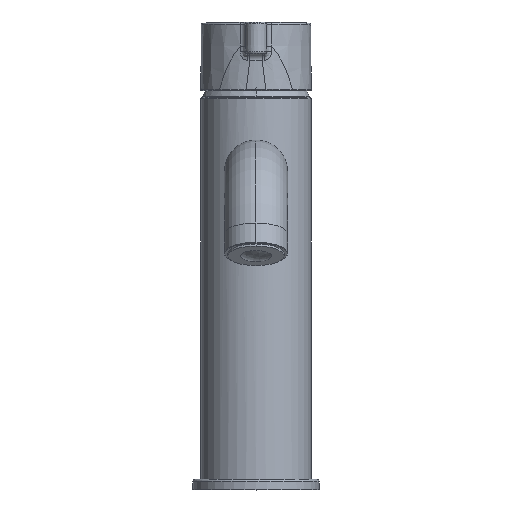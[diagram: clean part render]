
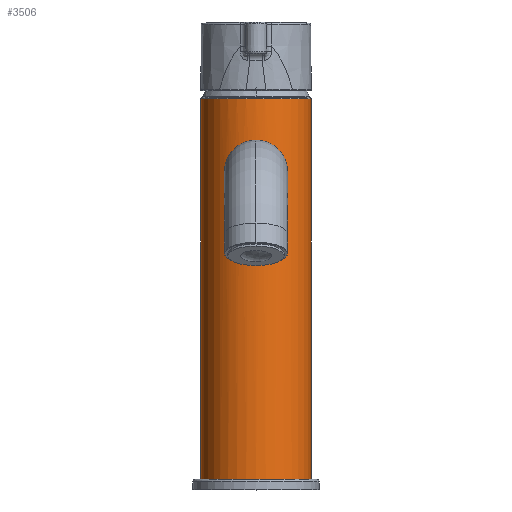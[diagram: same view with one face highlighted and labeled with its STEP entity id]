
A CAD part, top view. The second image highlights one B-rep face of the part: STEP entity #3506.
In plain terms, the highlighted cylindrical face has radius 21 mm (diameter 42 mm), a partial arc.
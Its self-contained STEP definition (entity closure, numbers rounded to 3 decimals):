
#929=CARTESIAN_POINT('',(0.,144.5,0.));
#930=DIRECTION('',(0.,-1.,0.));
#931=DIRECTION('',(1.,0.,0.));
#932=AXIS2_PLACEMENT_3D('',#929,#930,#931);
#934=CARTESIAN_POINT('',(0.,144.5,0.));
#935=DIRECTION('',(0.,-1.,0.));
#936=DIRECTION('',(1.,0.,0.017));
#937=AXIS2_PLACEMENT_3D('',#934,#935,#936);
#944=DIRECTION('',(0.,-1.,0.));
#945=VECTOR('',#944,144.5);
#946=CARTESIAN_POINT('',(21.,144.5,0.));
#947=LINE('',#946,#945);
#948=DIRECTION('',(0.,-1.,0.));
#949=VECTOR('',#948,144.5);
#950=CARTESIAN_POINT('',(-21.,144.5,0.));
#951=LINE('',#950,#949);
#962=CARTESIAN_POINT('',(0.,0.,0.));
#963=DIRECTION('',(0.,1.,0.));
#964=DIRECTION('',(-1.,0.,0.));
#965=AXIS2_PLACEMENT_3D('',#962,#963,#964);
#1030=CARTESIAN_POINT('',(0.,104.7,21.));
#1031=CARTESIAN_POINT('',(-0.765,104.7,21.));
#1032=CARTESIAN_POINT('',(-2.338,104.847,20.916));
#1033=CARTESIAN_POINT('',(-4.747,105.575,20.506));
#1034=CARTESIAN_POINT('',(-7.03,106.87,19.828));
#1035=CARTESIAN_POINT('',(-8.88,108.482,19.064));
#1036=CARTESIAN_POINT('',(-10.565,110.791,18.172));
#1037=CARTESIAN_POINT('',(-11.548,113.139,17.546));
#1038=CARTESIAN_POINT('',(-12.035,115.594,17.21));
#1039=CARTESIAN_POINT('',(-12.005,118.02,17.231));
#1040=CARTESIAN_POINT('',(-11.526,120.269,17.559));
#1041=CARTESIAN_POINT('',(-10.685,122.344,18.096));
#1042=CARTESIAN_POINT('',(-9.211,124.536,18.902));
#1043=CARTESIAN_POINT('',(-7.37,126.293,19.708));
#1044=CARTESIAN_POINT('',(-4.954,127.753,20.466));
#1045=CARTESIAN_POINT('',(-2.337,128.563,20.921));
#1046=CARTESIAN_POINT('',(-0.75,128.7,21.));
#1047=CARTESIAN_POINT('',(0.,128.7,21.));
#1053=CARTESIAN_POINT('',(0.,128.7,21.));
#1054=CARTESIAN_POINT('',(0.765,128.7,21.));
#1055=CARTESIAN_POINT('',(2.338,128.553,20.916));
#1056=CARTESIAN_POINT('',(4.747,127.825,20.506));
#1057=CARTESIAN_POINT('',(7.03,126.53,19.828));
#1058=CARTESIAN_POINT('',(8.88,124.918,19.064));
#1059=CARTESIAN_POINT('',(10.565,122.609,18.172));
#1060=CARTESIAN_POINT('',(11.548,120.261,17.546));
#1061=CARTESIAN_POINT('',(12.035,117.806,17.21));
#1062=CARTESIAN_POINT('',(12.005,115.38,17.231));
#1063=CARTESIAN_POINT('',(11.526,113.131,17.559));
#1064=CARTESIAN_POINT('',(10.685,111.056,18.096));
#1065=CARTESIAN_POINT('',(9.211,108.864,18.902));
#1066=CARTESIAN_POINT('',(7.37,107.107,19.708));
#1067=CARTESIAN_POINT('',(4.954,105.647,20.466));
#1068=CARTESIAN_POINT('',(2.337,104.837,20.921));
#1069=CARTESIAN_POINT('',(0.75,104.7,21.));
#1070=CARTESIAN_POINT('',(0.,104.7,21.));
#1384=CARTESIAN_POINT('',(-21.,0.,0.));
#1385=CARTESIAN_POINT('',(21.,0.,0.));
#1386=VERTEX_POINT('',#1384);
#1387=VERTEX_POINT('',#1385);
#1394=CARTESIAN_POINT('',(-21.,144.5,0.));
#1395=VERTEX_POINT('',#1394);
#1396=CARTESIAN_POINT('',(20.997,144.5,0.351));
#1397=VERTEX_POINT('',#1396);
#1398=CARTESIAN_POINT('',(21.,144.5,0.));
#1399=VERTEX_POINT('',#1398);
#1400=VERTEX_POINT('',#1030);
#1401=VERTEX_POINT('',#1047);
#3485=CARTESIAN_POINT('',(0.,152.25,0.));
#3486=DIRECTION('',(0.,-1.,0.));
#3487=DIRECTION('',(-1.,0.,0.));
#3488=AXIS2_PLACEMENT_3D('',#3485,#3486,#3487);
#3489=CYLINDRICAL_SURFACE('',#3488,21.);
#3491=ORIENTED_EDGE('',*,*,#3490,.F.);
#3492=ORIENTED_EDGE('',*,*,#3479,.F.);
#3493=ORIENTED_EDGE('',*,*,#3477,.F.);
#3495=ORIENTED_EDGE('',*,*,#3494,.T.);
#3497=ORIENTED_EDGE('',*,*,#3496,.F.);
#3498=EDGE_LOOP('',(#3491,#3492,#3493,#3495,#3497));
#3499=FACE_OUTER_BOUND('',#3498,.F.);
#3501=ORIENTED_EDGE('',*,*,#3500,.F.);
#3503=ORIENTED_EDGE('',*,*,#3502,.F.);
#3504=EDGE_LOOP('',(#3501,#3503));
#3505=FACE_BOUND('',#3504,.F.);
#3506=ADVANCED_FACE('',(#3499,#3505),#3489,.T.);
#933=CIRCLE('',#932,21.);
#938=CIRCLE('',#937,21.);
#966=CIRCLE('',#965,21.);
#1048=B_SPLINE_CURVE_WITH_KNOTS('',3,(#1030,#1031,#1032,#1033,#1034,#1035,#1036,
#1037,#1038,#1039,#1040,#1041,#1042,#1043,#1044,#1045,#1046,#1047),
.UNSPECIFIED.,.F.,.F.,(4,1,1,1,1,1,1,1,1,1,1,1,1,1,1,4),(0.,0.067,
0.133,0.2,0.267,0.333,0.4,
0.467,0.533,0.6,0.667,0.733,
0.8,0.867,0.933,1.),.UNSPECIFIED.);
#1071=B_SPLINE_CURVE_WITH_KNOTS('',3,(#1053,#1054,#1055,#1056,#1057,#1058,#1059,
#1060,#1061,#1062,#1063,#1064,#1065,#1066,#1067,#1068,#1069,#1070),
.UNSPECIFIED.,.F.,.F.,(4,1,1,1,1,1,1,1,1,1,1,1,1,1,1,4),(0.,0.067,
0.133,0.2,0.267,0.333,0.4,
0.467,0.533,0.6,0.667,0.733,
0.8,0.867,0.933,1.),.UNSPECIFIED.);
#3477=EDGE_CURVE('',#1399,#1397,#933,.T.);
#3479=EDGE_CURVE('',#1397,#1395,#938,.T.);
#3490=EDGE_CURVE('',#1395,#1386,#951,.T.);
#3494=EDGE_CURVE('',#1399,#1387,#947,.T.);
#3496=EDGE_CURVE('',#1386,#1387,#966,.T.);
#3500=EDGE_CURVE('',#1400,#1401,#1048,.T.);
#3502=EDGE_CURVE('',#1401,#1400,#1071,.T.);
